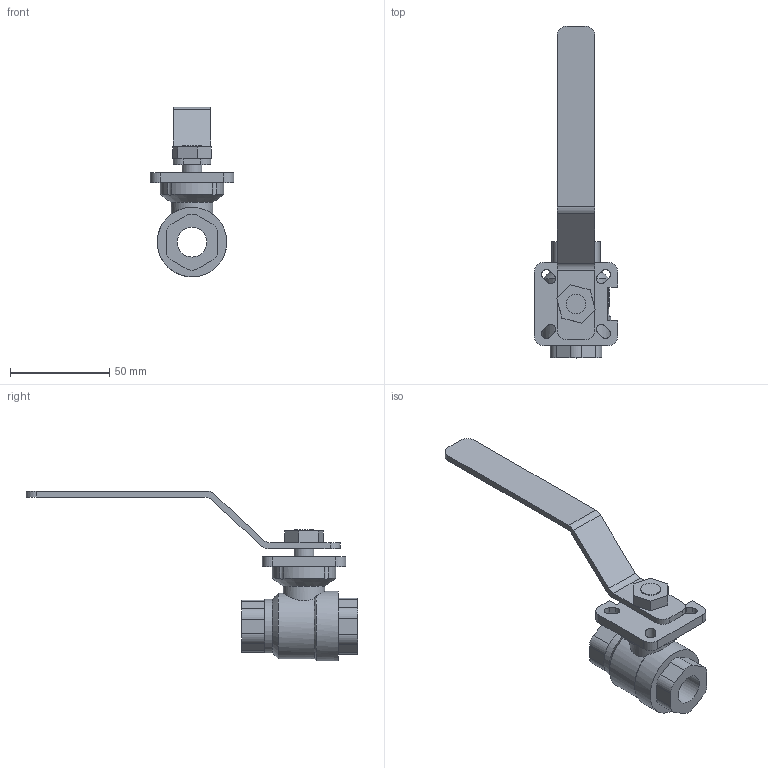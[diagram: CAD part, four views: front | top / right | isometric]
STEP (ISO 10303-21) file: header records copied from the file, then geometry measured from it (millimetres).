
FILE_DESCRIPTION(('STEP AP203'), '1');
FILE_NAME('3D_7015-015-63', '', ('UNSPECIFIED'), ('UNSPECIFIED'), 'C3D Converter', 'C3D Toolkit', '');
FILE_SCHEMA(('CONFIG_CONTROL_DESIGN'));
Length unit declared in the file: millimetre
Bounding box: 42 x 167.1 x 85.5 mm (x, y, z)
Volume: 60473.8 mm3; surface area: 22722.4 mm2
Topology: 10 solids, 10 shells, 941 faces, 2758 edges, 1838 vertices
Faces by surface type: plane 895, cylinder 43, cone 3
Full cylindrical faces by diameter (mm): 10 x2, 15 x1, 21 x1, 27 x1, 33 x1, 35 x1
Entity records: 38909 total; most frequent: CARTESIAN_POINT 6183, ORIENTED_EDGE 5498, DIRECTION 4725, EDGE_CURVE 2749, LINE 2639, VECTOR 2639, VERTEX_POINT 1838, AXIS2_PLACEMENT_3D 1043
